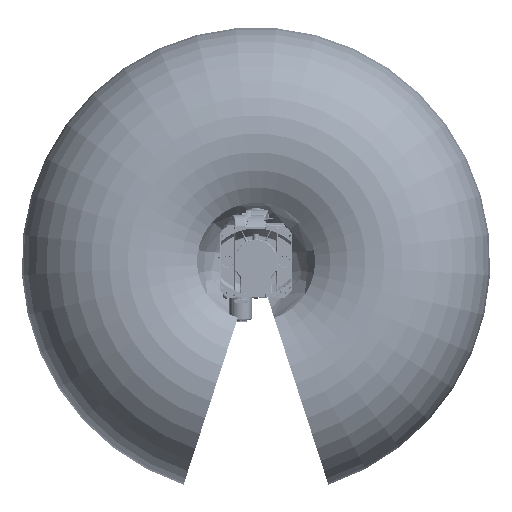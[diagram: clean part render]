
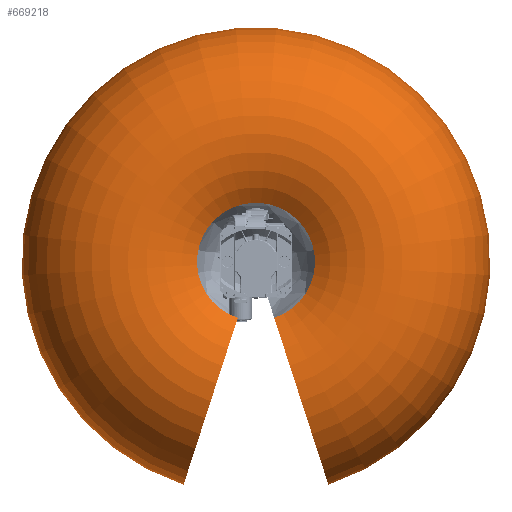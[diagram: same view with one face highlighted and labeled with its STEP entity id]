
A CAD part, front view. The second image highlights one B-rep face of the part: STEP entity #669218.
In plain terms, the highlighted toroidal (fillet/blend) face has major radius 1445.81 mm and minor radius 1237.62 mm.
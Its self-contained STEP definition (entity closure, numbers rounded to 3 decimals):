
#668957=CARTESIAN_POINT('',(446.781,714.371,
-1375.051));
#668958=DIRECTION('',(0.951,0.,0.309));
#668959=DIRECTION('',(-0.192,-0.782,0.592));
#668960=AXIS2_PLACEMENT_3D('',#668957,#668958,#668959);
#668996=CARTESIAN_POINT('',(-446.781,714.371,
-1375.051));
#668997=DIRECTION('',(0.951,0.,-0.309));
#668998=DIRECTION('',(0.192,-0.782,0.592));
#668999=AXIS2_PLACEMENT_3D('',#668996,#668997,#668998);
#669010=CARTESIAN_POINT('',(0.,714.371,0.));
#669011=DIRECTION('',(0.,-1.,0.));
#669012=DIRECTION('',(0.309,0.,-0.951));
#669013=AXIS2_PLACEMENT_3D('',#669010,#669011,#669012);
#669015=CARTESIAN_POINT('',(0.,-253.898,0.));
#669016=DIRECTION('',(0.,-1.,0.));
#669017=DIRECTION('',(0.309,0.,-0.951));
#669018=AXIS2_PLACEMENT_3D('',#669015,#669016,#669017);
#669036=CARTESIAN_POINT('',(208.586,-253.898,
-641.963));
#669037=VERTEX_POINT('',#669036);
#669038=CARTESIAN_POINT('',(829.226,714.371,
-2552.096));
#669039=VERTEX_POINT('',#669038);
#669050=CARTESIAN_POINT('',(-208.586,-253.898,
-641.963));
#669051=VERTEX_POINT('',#669050);
#669052=CARTESIAN_POINT('',(-829.226,714.371,
-2552.096));
#669053=VERTEX_POINT('',#669052);
#669206=CARTESIAN_POINT('',(0.,714.371,0.));
#669207=DIRECTION('',(0.,-1.,0.));
#669208=DIRECTION('',(-0.309,0.,0.951));
#669209=AXIS2_PLACEMENT_3D('',#669206,#669207,#669208);
#669210=TOROIDAL_SURFACE('',#669209,1445.814,1237.619);
#669211=ORIENTED_EDGE('',*,*,#669065,.F.);
#669213=ORIENTED_EDGE('',*,*,#669212,.T.);
#669214=ORIENTED_EDGE('',*,*,#669161,.T.);
#669215=ORIENTED_EDGE('',*,*,#669200,.F.);
#669216=EDGE_LOOP('',(#669211,#669213,#669214,#669215));
#669217=FACE_OUTER_BOUND('',#669216,.F.);
#669218=ADVANCED_FACE('',(#669217),#669210,.T.);
#668961=CIRCLE('',#668960,1237.619);
#669000=CIRCLE('',#668999,1237.619);
#669014=CIRCLE('',#669013,2683.433);
#669019=CIRCLE('',#669018,675.);
#669065=EDGE_CURVE('',#669037,#669039,#668961,.T.);
#669161=EDGE_CURVE('',#669051,#669053,#669000,.T.);
#669200=EDGE_CURVE('',#669039,#669053,#669014,.T.);
#669212=EDGE_CURVE('',#669037,#669051,#669019,.T.);
